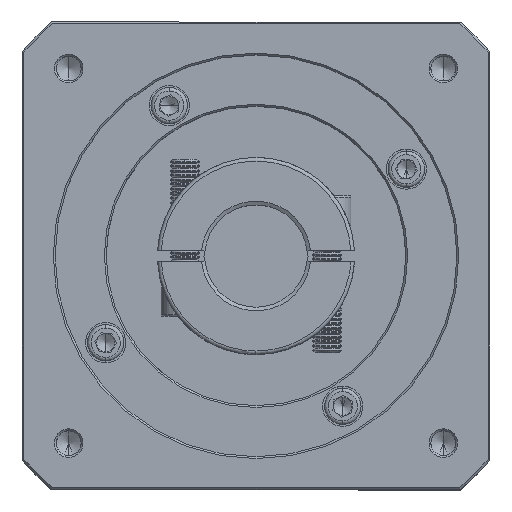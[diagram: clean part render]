
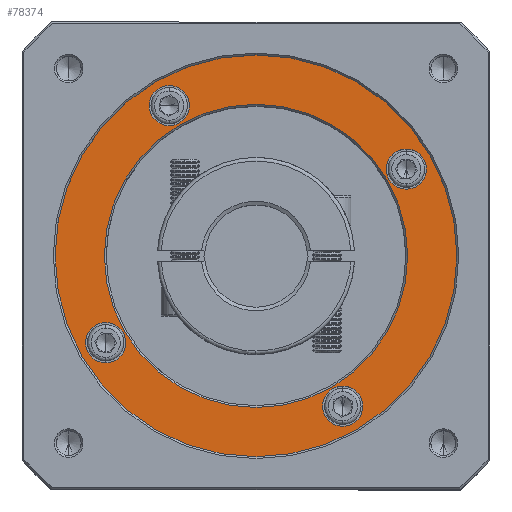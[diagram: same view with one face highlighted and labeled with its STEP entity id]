
A CAD part, top view. The second image highlights one B-rep face of the part: STEP entity #78374.
In plain terms, the highlighted planar face has unit normal (0, 0, 1).
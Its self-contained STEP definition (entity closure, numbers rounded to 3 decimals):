
#2491 = ORIENTED_EDGE ( 'NONE', *, *, #133301, .T. ) ;
#2681 = FACE_BOUND ( 'NONE', #17952, .T. ) ;
#3928 = DIRECTION ( 'NONE',  ( 0., 0., 1. ) ) ;
#4533 = EDGE_CURVE ( 'NONE', #106811, #49325, #73138, .T. ) ;
#4619 = EDGE_CURVE ( 'NONE', #24703, #30393, #124813, .T. ) ;
#4823 = CARTESIAN_POINT ( 'NONE',  ( 20.639, 89., -11.393 ) ) ;
#6045 = CARTESIAN_POINT ( 'NONE',  ( 44.389, 89.364, -11.393 ) ) ;
#8240 = CARTESIAN_POINT ( 'NONE',  ( 44.389, 47.864, -11.393 ) ) ;
#9329 = FACE_BOUND ( 'NONE', #63029, .T. ) ;
#10532 = DIRECTION ( 'NONE',  ( 0., 0., -1. ) ) ;
#10640 = EDGE_CURVE ( 'NONE', #30393, #24703, #10935, .T. ) ;
#10935 = CIRCLE ( 'NONE', #18758, 5.5 ) ;
#11513 = CARTESIAN_POINT ( 'NONE',  ( 3.253, 29.614, -11.393 ) ) ;
#13284 = AXIS2_PLACEMENT_3D ( 'NONE', #36612, #3928, #101522 ) ;
#13702 = CARTESIAN_POINT ( 'NONE',  ( 44.389, 47.864, -11.393 ) ) ;
#14161 = CARTESIAN_POINT ( 'NONE',  ( 3.253, 18.614, -11.393 ) ) ;
#17952 = EDGE_LOOP ( 'NONE', ( #2491, #91291 ) ) ;
#18758 = AXIS2_PLACEMENT_3D ( 'NONE', #132544, #35449, #35898 ) ;
#18862 = ORIENTED_EDGE ( 'NONE', *, *, #23364, .T. ) ;
#20342 = CARTESIAN_POINT ( 'NONE',  ( 68.139, 6.728, -11.393 ) ) ;
#21954 = ORIENTED_EDGE ( 'NONE', *, *, #10640, .T. ) ;
#23364 = EDGE_CURVE ( 'NONE', #48232, #41321, #108461, .T. ) ;
#24703 = VERTEX_POINT ( 'NONE', #14161 ) ;
#24729 = AXIS2_PLACEMENT_3D ( 'NONE', #4823, #122506, #79580 ) ;
#25869 = DIRECTION ( 'NONE',  ( 0., -1., 0. ) ) ;
#26081 = EDGE_LOOP ( 'NONE', ( #77903, #21954 ) ) ;
#27093 = CARTESIAN_POINT ( 'NONE',  ( 68.139, 12.228, -11.393 ) ) ;
#27265 = DIRECTION ( 'NONE',  ( 0., 0., -1. ) ) ;
#29283 = DIRECTION ( 'NONE',  ( 0., -1., 0. ) ) ;
#29777 = DIRECTION ( 'NONE',  ( 0., -1., 0. ) ) ;
#30393 = VERTEX_POINT ( 'NONE', #11513 ) ;
#30680 = DIRECTION ( 'NONE',  ( 0., -1., 0. ) ) ;
#31091 = AXIS2_PLACEMENT_3D ( 'NONE', #117074, #10532, #107702 ) ;
#32253 = DIRECTION ( 'NONE',  ( 0., 0., -1. ) ) ;
#32259 = ORIENTED_EDGE ( 'NONE', *, *, #71641, .T. ) ;
#32719 = CARTESIAN_POINT ( 'NONE',  ( 68.139, 6.728, -11.393 ) ) ;
#35449 = DIRECTION ( 'NONE',  ( 0., 0., -1. ) ) ;
#35807 = CARTESIAN_POINT ( 'NONE',  ( 20.639, 83.5, -11.393 ) ) ;
#35898 = DIRECTION ( 'NONE',  ( 0., -1., 0. ) ) ;
#36041 = FACE_BOUND ( 'NONE', #125783, .T. ) ;
#36576 = DIRECTION ( 'NONE',  ( 0., 0., 1. ) ) ;
#36612 = CARTESIAN_POINT ( 'NONE',  ( 44.389, 47.864, -11.393 ) ) ;
#37239 = VERTEX_POINT ( 'NONE', #79135 ) ;
#39541 = CIRCLE ( 'NONE', #114623, 5.5 ) ;
#41321 = VERTEX_POINT ( 'NONE', #27093 ) ;
#41797 = CARTESIAN_POINT ( 'NONE',  ( 68.139, 1.228, -11.393 ) ) ;
#42970 = DIRECTION ( 'NONE',  ( 0., -1., 0. ) ) ;
#45941 = DIRECTION ( 'NONE',  ( 0., -1., 0. ) ) ;
#48232 = VERTEX_POINT ( 'NONE', #41797 ) ;
#49325 = VERTEX_POINT ( 'NONE', #6045 ) ;
#51321 = CARTESIAN_POINT ( 'NONE',  ( 85.526, 71.614, -11.393 ) ) ;
#51605 = CARTESIAN_POINT ( 'NONE',  ( 85.526, 71.614, -11.393 ) ) ;
#52906 = CIRCLE ( 'NONE', #53425, 5.5 ) ;
#53425 = AXIS2_PLACEMENT_3D ( 'NONE', #51605, #62809, #135609 ) ;
#54028 = EDGE_CURVE ( 'NONE', #112306, #79035, #71288, .T. ) ;
#55132 = CARTESIAN_POINT ( 'NONE',  ( 44.389, 6.364, -11.393 ) ) ;
#58560 = CARTESIAN_POINT ( 'NONE',  ( 44.389, 102.864, -11.393 ) ) ;
#58788 = CIRCLE ( 'NONE', #60320, 5.5 ) ;
#59108 = CARTESIAN_POINT ( 'NONE',  ( 20.639, 89., -11.393 ) ) ;
#60320 = AXIS2_PLACEMENT_3D ( 'NONE', #59108, #27265, #25869 ) ;
#60844 = EDGE_CURVE ( 'NONE', #75846, #86383, #116608, .T. ) ;
#60849 = ORIENTED_EDGE ( 'NONE', *, *, #134136, .T. ) ;
#62095 = DIRECTION ( 'NONE',  ( 0., 0., -1. ) ) ;
#62260 = ORIENTED_EDGE ( 'NONE', *, *, #60844, .T. ) ;
#62809 = DIRECTION ( 'NONE',  ( 0., 0., -1. ) ) ;
#63029 = EDGE_LOOP ( 'NONE', ( #32259, #125652 ) ) ;
#70905 = DIRECTION ( 'NONE',  ( 0., 0., -1. ) ) ;
#71288 = CIRCLE ( 'NONE', #24729, 5.5 ) ;
#71641 = EDGE_CURVE ( 'NONE', #134943, #37239, #52906, .T. ) ;
#73138 = CIRCLE ( 'NONE', #101700, 41.5 ) ;
#73411 = CARTESIAN_POINT ( 'NONE',  ( 20.639, 94.5, -11.393 ) ) ;
#73683 = CARTESIAN_POINT ( 'NONE',  ( 44.389, -7.136, -11.393 ) ) ;
#74534 = FACE_OUTER_BOUND ( 'NONE', #92912, .T. ) ;
#75601 = AXIS2_PLACEMENT_3D ( 'NONE', #127946, #127486, #138177 ) ;
#75846 = VERTEX_POINT ( 'NONE', #58560 ) ;
#77903 = ORIENTED_EDGE ( 'NONE', *, *, #4619, .T. ) ;
#78374 = ADVANCED_FACE ( 'NONE', ( #74534, #112993, #36041, #9329, #131327, #2681 ), #100555, .T. ) ;
#79035 = VERTEX_POINT ( 'NONE', #35807 ) ;
#79135 = CARTESIAN_POINT ( 'NONE',  ( 85.526, 77.114, -11.393 ) ) ;
#79580 = DIRECTION ( 'NONE',  ( 0., -1., 0. ) ) ;
#84700 = EDGE_CURVE ( 'NONE', #49325, #106811, #88593, .T. ) ;
#86383 = VERTEX_POINT ( 'NONE', #73683 ) ;
#88593 = CIRCLE ( 'NONE', #90458, 41.5 ) ;
#89331 = AXIS2_PLACEMENT_3D ( 'NONE', #32719, #32253, #42970 ) ;
#89953 = ORIENTED_EDGE ( 'NONE', *, *, #84700, .T. ) ;
#90116 = CIRCLE ( 'NONE', #75601, 55. ) ;
#90458 = AXIS2_PLACEMENT_3D ( 'NONE', #8240, #104940, #29283 ) ;
#91034 = EDGE_CURVE ( 'NONE', #37239, #134943, #39541, .T. ) ;
#91291 = ORIENTED_EDGE ( 'NONE', *, *, #54028, .T. ) ;
#92851 = AXIS2_PLACEMENT_3D ( 'NONE', #13702, #36576, #45941 ) ;
#92912 = EDGE_LOOP ( 'NONE', ( #60849, #62260 ) ) ;
#93776 = DIRECTION ( 'NONE',  ( 0., 0., -1. ) ) ;
#94207 = CARTESIAN_POINT ( 'NONE',  ( 44.389, 47.864, -11.393 ) ) ;
#99060 = CIRCLE ( 'NONE', #89331, 5.5 ) ;
#100555 = PLANE ( 'NONE',  #92851 ) ;
#101522 = DIRECTION ( 'NONE',  ( 0., -1., 0. ) ) ;
#101700 = AXIS2_PLACEMENT_3D ( 'NONE', #94207, #70905, #135295 ) ;
#104940 = DIRECTION ( 'NONE',  ( 0., 0., -1. ) ) ;
#106811 = VERTEX_POINT ( 'NONE', #55132 ) ;
#107702 = DIRECTION ( 'NONE',  ( 0., -1., 0. ) ) ;
#108130 = ORIENTED_EDGE ( 'NONE', *, *, #4533, .T. ) ;
#108461 = CIRCLE ( 'NONE', #131518, 5.5 ) ;
#112306 = VERTEX_POINT ( 'NONE', #73411 ) ;
#112993 = FACE_BOUND ( 'NONE', #132896, .T. ) ;
#114623 = AXIS2_PLACEMENT_3D ( 'NONE', #51321, #62095, #30680 ) ;
#116608 = CIRCLE ( 'NONE', #13284, 55. ) ;
#117074 = CARTESIAN_POINT ( 'NONE',  ( 3.253, 24.114, -11.393 ) ) ;
#122506 = DIRECTION ( 'NONE',  ( 0., 0., -1. ) ) ;
#124813 = CIRCLE ( 'NONE', #31091, 5.5 ) ;
#125652 = ORIENTED_EDGE ( 'NONE', *, *, #91034, .T. ) ;
#125783 = EDGE_LOOP ( 'NONE', ( #18862, #127489 ) ) ;
#127486 = DIRECTION ( 'NONE',  ( 0., 0., 1. ) ) ;
#127489 = ORIENTED_EDGE ( 'NONE', *, *, #130126, .T. ) ;
#127649 = CARTESIAN_POINT ( 'NONE',  ( 85.526, 66.114, -11.393 ) ) ;
#127946 = CARTESIAN_POINT ( 'NONE',  ( 44.389, 47.864, -11.393 ) ) ;
#130126 = EDGE_CURVE ( 'NONE', #41321, #48232, #99060, .T. ) ;
#131327 = FACE_BOUND ( 'NONE', #26081, .T. ) ;
#131518 = AXIS2_PLACEMENT_3D ( 'NONE', #20342, #93776, #29777 ) ;
#132544 = CARTESIAN_POINT ( 'NONE',  ( 3.253, 24.114, -11.393 ) ) ;
#132896 = EDGE_LOOP ( 'NONE', ( #108130, #89953 ) ) ;
#133301 = EDGE_CURVE ( 'NONE', #79035, #112306, #58788, .T. ) ;
#134136 = EDGE_CURVE ( 'NONE', #86383, #75846, #90116, .T. ) ;
#134943 = VERTEX_POINT ( 'NONE', #127649 ) ;
#135295 = DIRECTION ( 'NONE',  ( 0., -1., 0. ) ) ;
#135609 = DIRECTION ( 'NONE',  ( 0., -1., 0. ) ) ;
#138177 = DIRECTION ( 'NONE',  ( 0., -1., 0. ) ) ;
